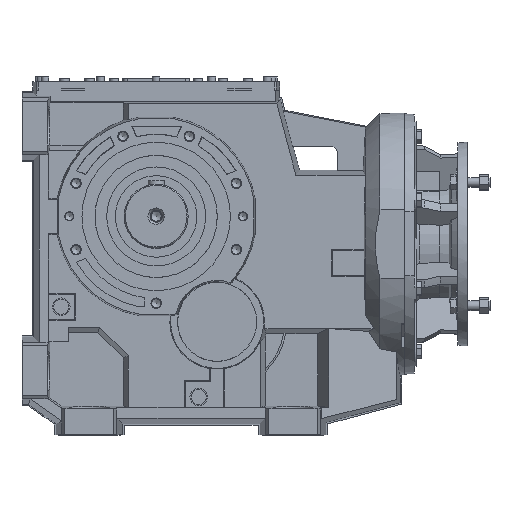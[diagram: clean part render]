
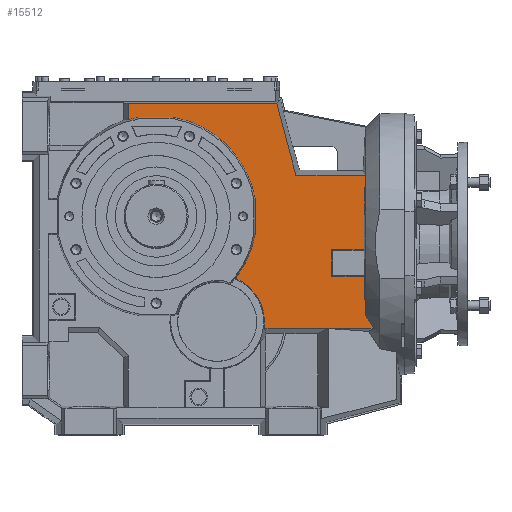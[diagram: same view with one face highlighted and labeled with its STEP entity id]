
A CAD part, top view. The second image highlights one B-rep face of the part: STEP entity #15512.
In plain terms, the highlighted planar face has unit normal (0, 0, 1) as drawn and (0, 0, -1) by its records, which use the part's own axes.
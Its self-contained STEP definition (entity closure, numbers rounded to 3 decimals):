
#308=CIRCLE('',#16561,172.832);
#311=CIRCLE('',#16567,172.832);
#312=CIRCLE('',#16568,172.832);
#313=CIRCLE('',#16569,81.234);
#752=B_SPLINE_CURVE_WITH_KNOTS('',3,(#22393,#22394,#22395,#22396),
 .UNSPECIFIED.,.F.,.F.,(4,4),(0.304,0.331),
 .UNSPECIFIED.);
#785=B_SPLINE_CURVE_WITH_KNOTS('',3,(#23321,#23322,#23323,#23324),
 .UNSPECIFIED.,.F.,.F.,(4,4),(0.657,0.723),
 .UNSPECIFIED.);
#786=B_SPLINE_CURVE_WITH_KNOTS('',3,(#23332,#23333,#23334,#23335,#23336),
 .UNSPECIFIED.,.F.,.F.,(4,1,4),(0.482,0.547,0.611),
 .UNSPECIFIED.);
#1612=ORIENTED_EDGE('',*,*,#6073,.F.);
#1613=ORIENTED_EDGE('',*,*,#6074,.T.);
#1614=ORIENTED_EDGE('',*,*,#6075,.T.);
#1615=ORIENTED_EDGE('',*,*,#6076,.T.);
#1616=ORIENTED_EDGE('',*,*,#6077,.F.);
#1617=ORIENTED_EDGE('',*,*,#6078,.F.);
#1618=ORIENTED_EDGE('',*,*,#5686,.F.);
#1619=ORIENTED_EDGE('',*,*,#5729,.F.);
#1620=ORIENTED_EDGE('',*,*,#6079,.T.);
#1621=ORIENTED_EDGE('',*,*,#6080,.T.);
#1622=ORIENTED_EDGE('',*,*,#6081,.F.);
#1623=ORIENTED_EDGE('',*,*,#6082,.T.);
#1624=ORIENTED_EDGE('',*,*,#6083,.F.);
#1625=ORIENTED_EDGE('',*,*,#6064,.T.);
#1626=ORIENTED_EDGE('',*,*,#6084,.F.);
#1627=ORIENTED_EDGE('',*,*,#6085,.T.);
#1628=ORIENTED_EDGE('',*,*,#6086,.T.);
#1629=ORIENTED_EDGE('',*,*,#5668,.F.);
#5668=EDGE_CURVE('',#7916,#7917,#752,.T.);
#5686=EDGE_CURVE('',#7934,#7935,#9492,.T.);
#5729=EDGE_CURVE('',#7975,#7934,#9534,.T.);
#6064=EDGE_CURVE('',#8280,#8279,#308,.T.);
#6073=EDGE_CURVE('',#8284,#7916,#785,.T.);
#6074=EDGE_CURVE('',#8284,#8285,#9769,.T.);
#6075=EDGE_CURVE('',#8285,#8286,#9770,.T.);
#6076=EDGE_CURVE('',#8286,#8287,#9771,.T.);
#6077=EDGE_CURVE('',#8288,#8287,#786,.T.);
#6078=EDGE_CURVE('',#7935,#8288,#9772,.T.);
#6079=EDGE_CURVE('',#7975,#8289,#9773,.F.);
#6080=EDGE_CURVE('',#8289,#8290,#311,.T.);
#6081=EDGE_CURVE('',#8291,#8290,#9774,.F.);
#6082=EDGE_CURVE('',#8291,#8292,#312,.T.);
#6083=EDGE_CURVE('',#8280,#8292,#9775,.F.);
#6084=EDGE_CURVE('',#8293,#8279,#313,.F.);
#6085=EDGE_CURVE('',#8293,#8294,#9776,.T.);
#6086=EDGE_CURVE('',#8294,#7917,#9777,.T.);
#7916=VERTEX_POINT('',#22392);
#7917=VERTEX_POINT('',#22397);
#7934=VERTEX_POINT('',#22476);
#7935=VERTEX_POINT('',#22478);
#7975=VERTEX_POINT('',#22569);
#8279=VERTEX_POINT('',#23286);
#8280=VERTEX_POINT('',#23288);
#8284=VERTEX_POINT('',#23325);
#8285=VERTEX_POINT('',#23327);
#8286=VERTEX_POINT('',#23329);
#8287=VERTEX_POINT('',#23331);
#8288=VERTEX_POINT('',#23337);
#8289=VERTEX_POINT('',#23340);
#8290=VERTEX_POINT('',#23342);
#8291=VERTEX_POINT('',#23344);
#8292=VERTEX_POINT('',#23346);
#8293=VERTEX_POINT('',#23349);
#8294=VERTEX_POINT('',#23351);
#9492=LINE('',#22477,#10952);
#9534=LINE('',#22570,#10994);
#9769=LINE('',#23326,#11229);
#9770=LINE('',#23328,#11230);
#9771=LINE('',#23330,#11231);
#9772=LINE('',#23338,#11232);
#9773=LINE('',#23339,#11233);
#9774=LINE('',#23343,#11234);
#9775=LINE('',#23347,#11235);
#9776=LINE('',#23350,#11236);
#9777=LINE('',#23352,#11237);
#10952=VECTOR('',#17951,1000.);
#10994=VECTOR('',#18013,1000.);
#11229=VECTOR('',#18486,1000.);
#11230=VECTOR('',#18487,1000.);
#11231=VECTOR('',#18488,1000.);
#11232=VECTOR('',#18489,1000.);
#11233=VECTOR('',#18490,1000.);
#11234=VECTOR('',#18493,1000.);
#11235=VECTOR('',#18496,1000.);
#11236=VECTOR('',#18499,1000.);
#11237=VECTOR('',#18500,1000.);
#12472=EDGE_LOOP('',(#1612,#1613,#1614,#1615,#1616,#1617,#1618,#1619,#1620,
#1621,#1622,#1623,#1624,#1625,#1626,#1627,#1628,#1629));
#13672=FACE_BOUND('',#12472,.T.);
#14854=PLANE('',#16566);
#15512=ADVANCED_FACE('',(#13672),#14854,.F.);
#16561=AXIS2_PLACEMENT_3D('',#23287,#18474,#18475);
#16566=AXIS2_PLACEMENT_3D('',#23320,#18484,#18485);
#16567=AXIS2_PLACEMENT_3D('',#23341,#18491,#18492);
#16568=AXIS2_PLACEMENT_3D('',#23345,#18494,#18495);
#16569=AXIS2_PLACEMENT_3D('',#23348,#18497,#18498);
#17951=DIRECTION('',(-0.259,-0.966,0.));
#18013=DIRECTION('',(-1.,0.,0.));
#18474=DIRECTION('',(0.,0.,1.));
#18475=DIRECTION('',(1.,0.,0.));
#18484=DIRECTION('',(0.,0.,1.));
#18485=DIRECTION('',(1.,0.,0.));
#18486=DIRECTION('',(1.,0.,0.));
#18487=DIRECTION('',(0.,1.,0.));
#18488=DIRECTION('',(-1.,0.,0.));
#18489=DIRECTION('',(-1.,0.,0.));
#18490=DIRECTION('',(0.,1.,0.));
#18491=DIRECTION('',(0.,0.,1.));
#18492=DIRECTION('',(1.,0.,0.));
#18493=DIRECTION('',(-1.,0.,0.));
#18494=DIRECTION('',(0.,0.,1.));
#18495=DIRECTION('',(1.,0.,0.));
#18496=DIRECTION('',(0.,-1.,0.));
#18497=DIRECTION('',(0.,0.,1.));
#18498=DIRECTION('',(1.,0.,0.));
#18499=DIRECTION('',(-1.,0.,0.));
#18500=DIRECTION('',(-1.,0.,0.));
#22392=CARTESIAN_POINT('',(67.,-122.621,-158.));
#22393=CARTESIAN_POINT('',(67.,-122.621,-158.));
#22394=CARTESIAN_POINT('',(62.272,-130.333,-158.));
#22395=CARTESIAN_POINT('',(57.341,-137.924,-158.));
#22396=CARTESIAN_POINT('',(52.262,-145.426,-158.));
#22397=CARTESIAN_POINT('',(52.262,-145.426,-158.));
#22476=CARTESIAN_POINT('',(219.354,240.72,-158.));
#22477=CARTESIAN_POINT('',(144.48,-38.713,-158.));
#22478=CARTESIAN_POINT('',(186.53,118.22,-158.));
#22569=CARTESIAN_POINT('',(474.426,240.72,-158.));
#22570=CARTESIAN_POINT('',(0.,240.72,-158.));
#23286=CARTESIAN_POINT('',(290.126,-59.174,-158.));
#23287=CARTESIAN_POINT('',(426.5,47.,-158.));
#23288=CARTESIAN_POINT('',(256.168,17.71,-158.));
#23320=CARTESIAN_POINT('',(0.,0.,-158.));
#23321=CARTESIAN_POINT('',(68.696,-56.,-158.));
#23322=CARTESIAN_POINT('',(68.307,-78.214,-158.));
#23323=CARTESIAN_POINT('',(67.713,-100.42,-158.));
#23324=CARTESIAN_POINT('',(67.,-122.621,-158.));
#23325=CARTESIAN_POINT('',(68.696,-56.,-158.));
#23326=CARTESIAN_POINT('',(65.,-56.,-158.));
#23327=CARTESIAN_POINT('',(125.,-56.,-158.));
#23328=CARTESIAN_POINT('',(125.,-56.,-158.));
#23329=CARTESIAN_POINT('',(125.,-10.,-158.));
#23330=CARTESIAN_POINT('',(125.,-10.,-158.));
#23331=CARTESIAN_POINT('',(69.185,-10.,-158.));
#23332=CARTESIAN_POINT('',(67.14,118.22,-158.));
#23333=CARTESIAN_POINT('',(67.81,96.863,-158.));
#23334=CARTESIAN_POINT('',(68.924,54.142,-158.));
#23335=CARTESIAN_POINT('',(69.255,11.381,-158.));
#23336=CARTESIAN_POINT('',(69.185,-10.,-158.));
#23337=CARTESIAN_POINT('',(67.14,118.22,-158.));
#23338=CARTESIAN_POINT('',(0.,118.22,-158.));
#23339=CARTESIAN_POINT('',(474.426,0.,-158.));
#23340=CARTESIAN_POINT('',(474.426,213.054,-158.));
#23341=CARTESIAN_POINT('',(426.5,47.,-158.));
#23342=CARTESIAN_POINT('',(455.79,217.332,-158.));
#23343=CARTESIAN_POINT('',(258.5,217.332,-158.));
#23344=CARTESIAN_POINT('',(397.21,217.332,-158.));
#23345=CARTESIAN_POINT('',(426.5,47.,-158.));
#23346=CARTESIAN_POINT('',(256.168,76.29,-158.));
#23347=CARTESIAN_POINT('',(256.168,-121.,-158.));
#23348=CARTESIAN_POINT('',(321.75,-134.,-158.));
#23349=CARTESIAN_POINT('',(241.323,-145.426,-158.));
#23350=CARTESIAN_POINT('',(257.,-145.426,-158.));
#23351=CARTESIAN_POINT('',(130.,-145.426,-158.));
#23352=CARTESIAN_POINT('',(257.,-145.426,-158.));
